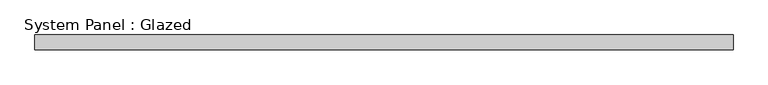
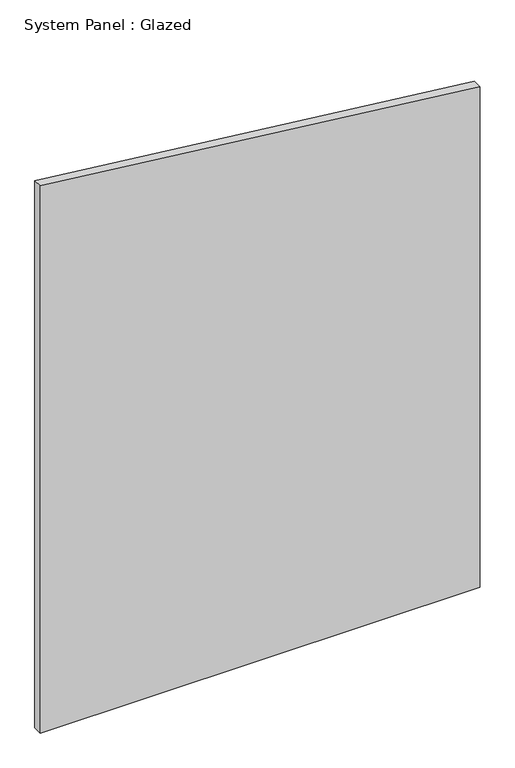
"""IFC4 building model written with IfcOpenShell, lengths in millimetres: plate geometry, System Panel : Glazed."""

from ifc_helpers import new_model, si_unit, frame, origin, place, context, project, spatial, polyline, outline, extrude, source, transform, mapped, element, save


def system_panel_glazed_e0e08120(model_context):
    return source(origin(), model_context, "Body", "SweptSolid", [
        extrude(outline(polyline([(0.0, -600.075), (0.0, 600.075), (1443.6356419, 600.075), (1577.8702284, -600.075), (0.0, -600.075)])), frame((0.0, -44.45, 0.0), z_axis=(0.0, 1.0, 0.0), x_axis=(0.0, 0.0, 1.0)), (0.0, 0.0, 1.0), 25.4),
    ])


if __name__ == "__main__":
    model = new_model("IFC4")
    model_context = context("Model", 3, world=origin())
    ifc_project = project(units=[si_unit("LENGTHUNIT", "METRE", prefix="MILLI")], contexts=[model_context])
    site = spatial("IfcSite", under=ifc_project)
    building = spatial("IfcBuilding", under=site)
    placement = place(None, origin())
    system_panel_glazed_shape = system_panel_glazed_e0e08120(model_context)
    element("IfcPlate", 1, ObjectType="System Panel : Glazed", at=placement, inside=building, context=model_context, shape_type="MappedRepresentation", body=[
        mapped(system_panel_glazed_shape, transform((0.0, 0.0, 0.0), x_axis=(1.0, 0.0, 0.0), y_axis=(0.0, 1.0, 0.0), z_axis=(0.0, 0.0, 1.0))),
    ])
    save(model, "model.ifc")
